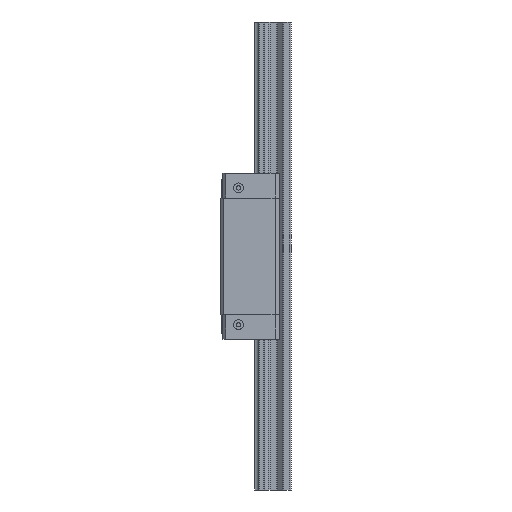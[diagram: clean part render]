
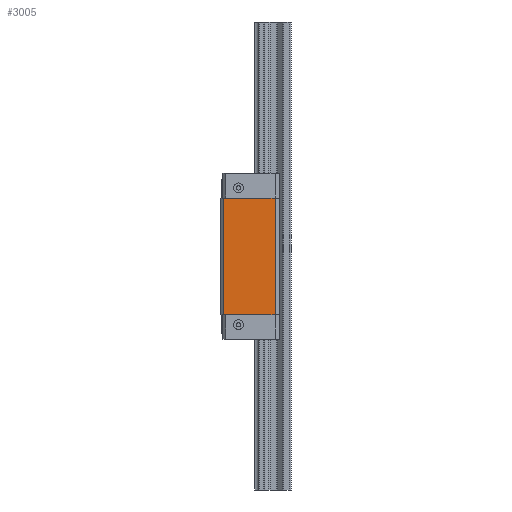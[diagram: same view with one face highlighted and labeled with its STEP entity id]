
A CAD part, left-side view. The second image highlights one B-rep face of the part: STEP entity #3005.
In plain terms, the highlighted planar face has unit normal (-1, 0, 0).
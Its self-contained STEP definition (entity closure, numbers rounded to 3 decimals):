
#49=DIRECTION('',(0.,0.,1.));
#50=VECTOR('',#49,39.8);
#51=CARTESIAN_POINT('',(-17.,-18.5,0.));
#52=LINE('',#51,#50);
#53=DIRECTION('',(0.,0.,1.));
#54=VECTOR('',#53,39.8);
#55=CARTESIAN_POINT('',(-17.,-1.,0.));
#56=LINE('',#55,#54);
#57=DIRECTION('',(0.,1.,0.));
#58=VECTOR('',#57,17.5);
#59=CARTESIAN_POINT('',(-17.,-18.5,0.));
#60=LINE('',#59,#58);
#1095=DIRECTION('',(0.,1.,0.));
#1096=VECTOR('',#1095,17.5);
#1097=CARTESIAN_POINT('',(-17.,-18.5,39.8));
#1098=LINE('',#1097,#1096);
#2213=CARTESIAN_POINT('',(-17.,-18.5,0.));
#2215=VERTEX_POINT('',#2213);
#2229=CARTESIAN_POINT('',(-17.,-1.,0.));
#2230=VERTEX_POINT('',#2229);
#2231=CARTESIAN_POINT('',(-17.,-18.5,39.8));
#2232=VERTEX_POINT('',#2231);
#2235=CARTESIAN_POINT('',(-17.,-1.,39.8));
#2236=VERTEX_POINT('',#2235);
#2992=CARTESIAN_POINT('',(-17.,-1.,0.));
#2993=DIRECTION('',(-1.,0.,0.));
#2994=DIRECTION('',(0.,-1.,0.));
#2995=AXIS2_PLACEMENT_3D('',#2992,#2993,#2994);
#2996=PLANE('',#2995);
#2998=ORIENTED_EDGE('',*,*,#2997,.T.);
#3000=ORIENTED_EDGE('',*,*,#2999,.F.);
#3001=ORIENTED_EDGE('',*,*,#2983,.F.);
#3002=ORIENTED_EDGE('',*,*,#2972,.T.);
#3003=EDGE_LOOP('',(#2998,#3000,#3001,#3002));
#3004=FACE_OUTER_BOUND('',#3003,.F.);
#3005=ADVANCED_FACE('',(#3004),#2996,.T.);
#2972=EDGE_CURVE('',#2215,#2230,#60,.T.);
#2983=EDGE_CURVE('',#2215,#2232,#52,.T.);
#2997=EDGE_CURVE('',#2230,#2236,#56,.T.);
#2999=EDGE_CURVE('',#2232,#2236,#1098,.T.);
